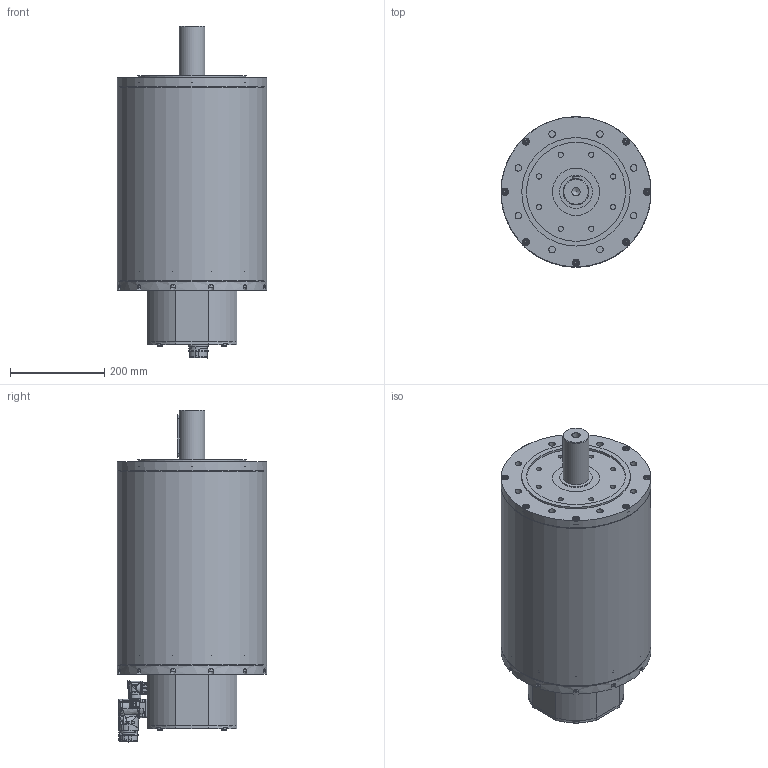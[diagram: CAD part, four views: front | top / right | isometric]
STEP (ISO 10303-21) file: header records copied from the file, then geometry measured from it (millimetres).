
FILE_DESCRIPTION(/* description */ (''),/* implementation_level */ '2;1');
FILE_NAME(/* name */ 'C:\Users\Public\Documents\Autodesk\Inventor LT 2014\Workspace\Motori Sito WEB\TG_8\STEP_DSM5_8x\DSM5_84_x199.stp',/* time_stamp */ '2021-03-31T14:36:33+02:00',/* author */ ('marcor'),/* organization */ (''),/* preprocessor_version */ 'ST-DEVELOPER v15.2',/* originating_system */ 'Autodesk Inventor LT ',/* authorisation */ '');
FILE_SCHEMA (('AUTOMOTIVE_DESIGN { 1 0 10303 214 3 1 1 }'));
Products named in the file (1): DSM5_84_x199
Bounding box: 318 x 318 x 704 mm (x, y, z)
Volume: 39680618.6 mm3; surface area: 1256573.7 mm2
Topology: 29 solids, 36 shells, 1971 faces, 5129 edges, 3360 vertices
Faces by surface type: plane 878, cylinder 417, cone 415, bspline 137, torus 107, sphere 17
Full cylindrical faces by diameter (mm): 1.2 x12, 2 x2, 2.224 x4, 2.5 x4, 2.88 x4, 3.26 x4, 3.6 x5, 4 x5, 4.5 x1, 4.8 x4, 4.917 x16, 5.4 x1, 5.5 x1, 5.9 x1, 6 x16, 6.5 x20, 6.647 x8, 7 x4, 8 x10, 8.5 x1, 9 x7, 10 x16, 10.106 x2, 11 x8, 13 x7, 13.835 x8, 15 x7, 15.2 x1, 17.294 x1, 17.4 x2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
Entity records: 65174 total; most frequent: CARTESIAN_POINT 19240, ORIENTED_EDGE 8984, DIRECTION 8718, EDGE_CURVE 4490, AXIS2_PLACEMENT_3D 3441, VERTEX_POINT 3184, EDGE_LOOP 2666, ADVANCED_FACE 1971
